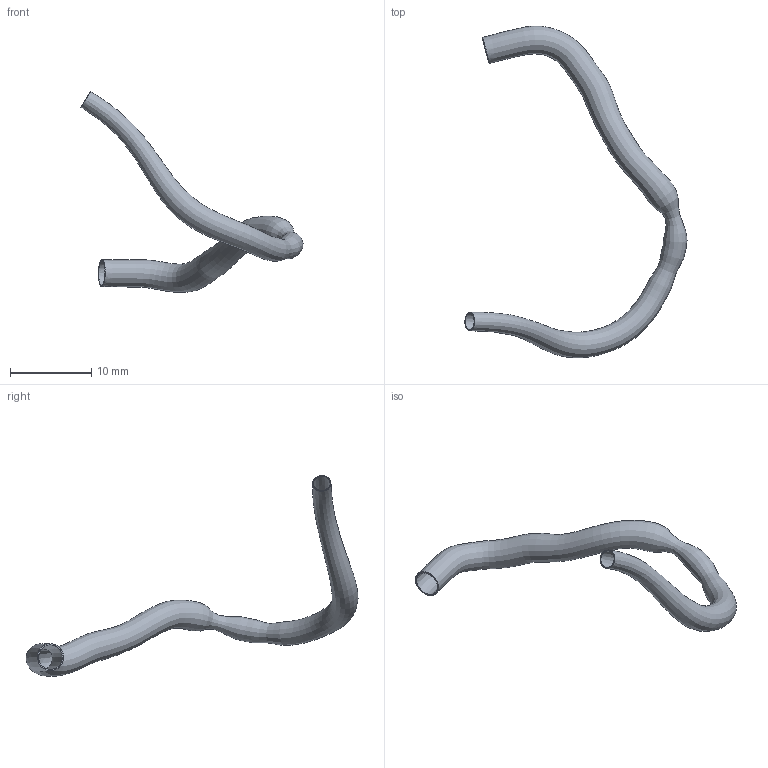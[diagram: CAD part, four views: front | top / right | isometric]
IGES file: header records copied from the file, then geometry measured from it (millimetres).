
Global section: file name: C:\Documents and Settings\Administrator\Desktop\FDA Bifurcation win\RawData_for_IGES\HRCA_Data\20001205.093751\IGES\20001205.093751.RCA.SEG.ED.igs; native system: Rhinoceros ( May 19 2006 ); preprocessor: Trout Lake IGES 012 May 19 2006; date: 100728.204055; units: centimetre
Bounding box: 27.36 x 40.89 x 24.73 mm (x, y, z)
Surface area: 1450.5 mm2 (no closed solid volume)
Topology: 0 solids, 0 shells, 4 faces, 12 edges, 8 vertices
Faces by surface type: bspline 4
